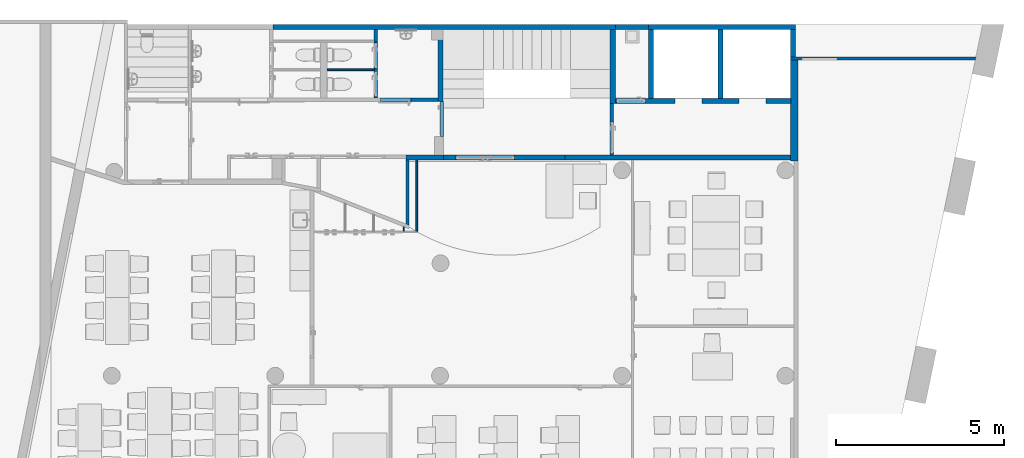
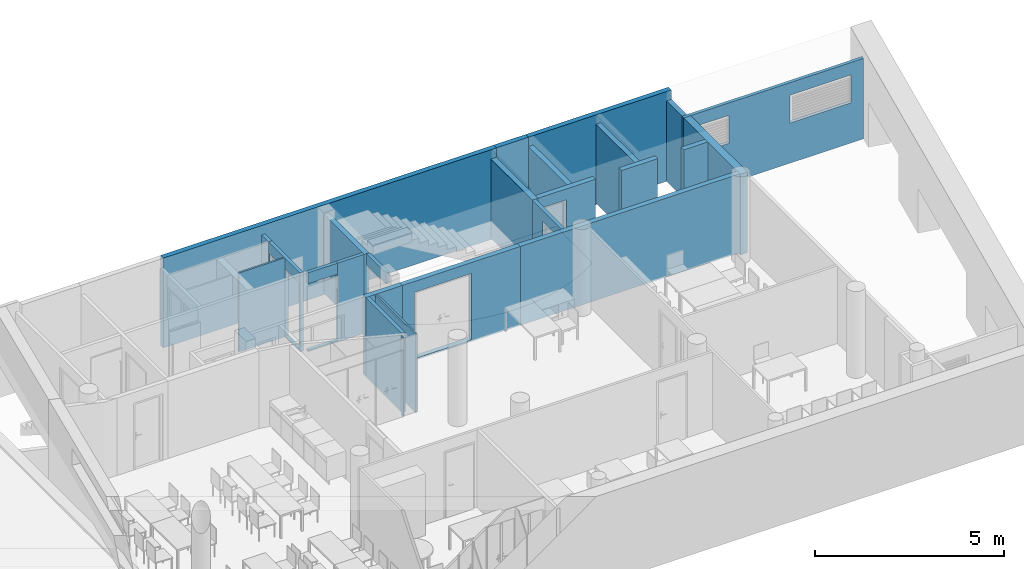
"""IFC4 building model written with IfcOpenShell, lengths in metres."""

from ifc_helpers import new_model, entity, si_unit, converted_unit, derived_unit, frame, frame_2d, origin, origin_with_axes, place, context, subcontext, project, spatial, polyline, rectangle, outline, extrude, material, layer, layer_set, layer_usage, element, save


model = new_model("IFC4")

# Units and contexts
model_context = context("Model", 3, precision=1e-05, world=origin())
body_context = subcontext(model_context, "Body", "Model", "MODEL_VIEW")
ifc_project = project(units=[si_unit("LENGTHUNIT", "METRE"), si_unit("AREAUNIT", "SQUARE_METRE"), si_unit("VOLUMEUNIT", "CUBIC_METRE"), si_unit("MASSUNIT", "GRAM", prefix="KILO"), converted_unit("PLANEANGLEUNIT", "DEGREE", entity("IfcPlaneAngleMeasure", 0.0174532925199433), si_unit("PLANEANGLEUNIT", "RADIAN"), dimensions=[0, 0, 0, 0, 0, 0, 0]), derived_unit("THERMALTRANSMITTANCEUNIT", [(si_unit("POWERUNIT", "WATT"), 1), (si_unit("THERMODYNAMICTEMPERATUREUNIT", "KELVIN"), -1), (si_unit("LENGTHUNIT", "METRE"), -2)]), derived_unit("VOLUMETRICFLOWRATEUNIT", [(si_unit("LENGTHUNIT", "METRE"), 3), (converted_unit("TIMEUNIT", "hour", entity("IfcTimeMeasure", 3600.0), si_unit("TIMEUNIT", "SECOND"), dimensions=[0, 0, 1, 0, 0, 0, 0]), -1), (si_unit("LENGTHUNIT", "METRE"), -1)])], contexts=[model_context])

# Building, storeys
building_placement = place(None, origin())
building = spatial("IfcBuilding", under=ifc_project, at=building_placement, Name="HABITATGE PLURIFAMILIAR", CompositionType="ELEMENT")
storey_1_placement = place(building_placement, frame((0.0, 0.0, 3.35)))
storey_1 = spatial("IfcBuildingStorey", under=building, at=storey_1_placement, Name="PLANTA  ALTELL", CompositionType="ELEMENT", Elevation=3.35)
storey_2_placement = place(storey_1_placement, origin())
storey_2 = spatial("IfcBuildingStorey", under=storey_1, at=storey_2_placement, Name="NOU", CompositionType="PARTIAL")

# Walls
ifc_material_1 = material()
ifc_layer_1 = layer(ifc_material_1, 0.05)
ifc_layer_set_1 = layer_set([ifc_layer_1])
ifc_layer_usage_1 = layer_usage(ifc_layer_set_1, "AXIS2", "POSITIVE", 0.0)
wall_1_placement = place(storey_2_placement, frame((407.376931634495, 26.8594512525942, -0.05)))
element("IfcWall", 1, at=wall_1_placement, inside=storey_2, material=ifc_layer_usage_1, Name="Evans PA", context=body_context, shape_type="SweptSolid", body=[
    extrude(rectangle(XDim=1.4, YDim=0.05, at=frame_2d((0.7, 0.025), x_axis=(1.0, 0.0))), origin_with_axes(), (0.0, 0.0, 1.0), 2.55),
])
ifc_material_2 = material()
ifc_layer_2 = layer(ifc_material_2, 0.1)
ifc_layer_set_2 = layer_set([ifc_layer_2])
ifc_layer_usage_2 = layer_usage(ifc_layer_set_2, "AXIS2", "POSITIVE", 0.0)
wall_2_placement = place(storey_2_placement, frame((409.816597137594, 22.2681371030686, -0.05), z_axis=(0.0, 0.0, 1.0), x_axis=(0.0, 1.0, 0.0)))
element("IfcWall", 2, at=wall_2_placement, inside=storey_2, material=ifc_layer_usage_2, Name="Evans PA", context=body_context, shape_type="SweptSolid", body=[
    extrude(outline(polyline([(0.0, -0.1), (1.93145439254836, -0.1), (1.93145439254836, 0.0), (0.0393581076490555, 0.0), (0.0, -0.1)])), frame((0.0, 0.1, 0.0), z_axis=(0.0, 0.0, 1.0), x_axis=(1.0, 0.0, 0.0)), (0.0, 0.0, 1.0), 2.55),
])
ifc_material_3 = material()
ifc_layer_3 = layer(ifc_material_3, 0.05)
ifc_layer_set_3 = layer_set([ifc_layer_3])
ifc_layer_usage_3 = layer_usage(ifc_layer_set_3, "AXIS2", "POSITIVE", 0.0)
wall_3_placement = place(storey_2_placement, frame((410.067193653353, 22.0935846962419, -0.05), z_axis=(0.0, 0.0, 1.0), x_axis=(0.0, 1.0, 0.0)))
element("IfcWall", 3, at=wall_3_placement, inside=storey_2, material=ifc_layer_usage_3, Name="Evans PA", context=body_context, shape_type="SweptSolid", body=[
    extrude(rectangle(XDim=2.10600679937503, YDim=0.05, at=frame_2d((1.05300339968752, 0.025), x_axis=(1.0, 0.0))), origin_with_axes(), (0.0, 0.0, 1.0), 2.55),
])
ifc_material_4 = material()
ifc_layer_4 = layer(ifc_material_4, 0.03)
ifc_layer_set_4 = layer_set([ifc_layer_4])
ifc_layer_usage_4 = layer_usage(ifc_layer_set_4, "AXIS2", "POSITIVE", 0.0)
wall_4_placement = place(storey_2_placement, frame((409.676529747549, 22.0935846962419, -0.05), z_axis=(0.0, 0.0, 1.0), x_axis=(0.0, 1.0, 0.0)))
element("IfcWall", 4, at=wall_4_placement, inside=storey_2, material=ifc_layer_usage_4, Name="Evans PA", context=body_context, shape_type="SweptSolid", body=[
    extrude(outline(polyline([(0.0, -0.03), (0.122213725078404, -0.03), (0.134021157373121, 0.0), (0.0, 0.0), (0.0, -0.03)])), frame((0.0, 0.03, 0.0), z_axis=(0.0, 0.0, 1.0), x_axis=(1.0, 0.0, 0.0)), (0.0, 0.0, 1.0), 2.55),
])
ifc_material_5 = material()
ifc_layer_5 = layer(ifc_material_5, 0.15)
ifc_layer_set_5 = layer_set([ifc_layer_5])
ifc_layer_usage_5 = layer_usage(ifc_layer_set_5, "AXIS2", "POSITIVE", 0.0)
wall_5_placement = place(storey_2_placement, frame((421.286963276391, 27.2695914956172, -0.1), z_axis=(0.0, 0.0, 1.0), x_axis=(0.0, 1.0, 0.0)))
element("IfcWall", 5, at=wall_5_placement, inside=storey_2, material=ifc_layer_usage_5, Name="Evans PA", context=body_context, shape_type="SweptSolid", body=[
    extrude(rectangle(XDim=0.810496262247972, YDim=0.15, at=frame_2d((0.405248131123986, 0.075), x_axis=(1.0, 0.0))), origin_with_axes(), (0.0, 0.0, 1.0), 2.6),
])
ifc_material_6 = material()
ifc_layer_6 = layer(ifc_material_6, 0.15)
ifc_layer_set_6 = layer_set([ifc_layer_6])
ifc_layer_usage_6 = layer_usage(ifc_layer_set_6, "AXIS2", "POSITIVE", 0.0)
wall_6_placement = place(storey_2_placement, frame((417.074691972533, 26.0395914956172, -0.05), z_axis=(0.0, 0.0, 1.0), x_axis=(0.0, 1.0, 0.0)))
element("IfcWall", 6, at=wall_6_placement, inside=storey_2, material=ifc_layer_usage_6, Name="Evans PA", context=body_context, shape_type="SweptSolid", body=[
    extrude(rectangle(XDim=2.040496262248, YDim=0.15, at=frame_2d((1.020248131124, 0.075), x_axis=(1.0, 0.0))), origin_with_axes(), (0.0, 0.0, 1.0), 2.55),
])
ifc_material_7 = material()
ifc_layer_7 = layer(ifc_material_7, 0.15)
ifc_layer_set_7 = layer_set([ifc_layer_7])
ifc_layer_usage_7 = layer_usage(ifc_layer_set_7, "AXIS2", "POSITIVE", 0.0)
wall_7_placement = place(storey_2_placement, frame((419.137385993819, 26.0395914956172, -0.05), z_axis=(0.0, 0.0, 1.0), x_axis=(0.0, 1.0, 0.0)))
element("IfcWall", 7, at=wall_7_placement, inside=storey_2, material=ifc_layer_usage_7, Name="Evans PA", context=body_context, shape_type="SweptSolid", body=[
    extrude(rectangle(XDim=2.040496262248, YDim=0.15, at=frame_2d((1.020248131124, 0.075), x_axis=(1.0, 0.0))), origin_with_axes(), (0.0, 0.0, 1.0), 2.55),
])

# Wall, openings
ifc_material_8 = material()
ifc_layer_8 = layer(ifc_material_8, 0.1)
ifc_layer_set_8 = layer_set([ifc_layer_8])
ifc_layer_usage_8 = layer_usage(ifc_layer_set_8, "AXIS2", "POSITIVE", 0.0)
wall_8_placement = place(storey_2_placement, frame((426.647652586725, 27.2695914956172, -0.1), z_axis=(0.0, 0.0, 1.0), x_axis=(-1.0, 0.0, 0.0)))
wall_8 = element("IfcWall", 8, at=wall_8_placement, inside=storey_2, material=ifc_layer_usage_8, Name="Evans PA", context=body_context, shape_type="SweptSolid", body=[
    extrude(outline(polyline([(-5.51090262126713, -0.1), (-7.31715117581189e-08, -0.1), (0.0, 0.0), (-5.49017839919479, 0.0), (-5.51090262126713, -0.1)])), frame((5.51090262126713, 0.1, 0.0), z_axis=(0.0, 0.0, 1.0), x_axis=(1.0, 0.0, 0.0)), (0.0, 0.0, 1.0), 2.6),
])
opening_1_placement = place(wall_8_placement, frame((5.16778326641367, 0.1, 1.3), z_axis=(0.0, -1.0, 0.0), x_axis=(0.0, 0.0, 1.0)))
element("IfcOpeningElement", 9, at=opening_1_placement, cuts=wall_8, Name="Vano dei finestra PA", ObjectType="Opening", context=body_context, shape_type="SweptSolid", body=[
    extrude(outline(polyline([(0.9, 1.04746529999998), (0.9, 0.0), (0.0, 0.0), (0.0, 1.04746529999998), (0.9, 1.04746529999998)])), origin_with_axes(), (0.0, 0.0, 1.0), 0.1),
])
opening_2_placement = place(wall_8_placement, frame((2.26191189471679, 0.1, 1.3), z_axis=(0.0, -1.0, 0.0), x_axis=(0.0, 0.0, 1.0)))
element("IfcOpeningElement", 10, at=opening_2_placement, cuts=wall_8, Name="Vano dei finestra PA", ObjectType="Opening", context=body_context, shape_type="SweptSolid", body=[
    extrude(outline(polyline([(0.9, 1.86659639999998), (0.9, 0.0), (0.0, 0.0), (0.0, 1.86659639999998), (0.9, 1.86659639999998)])), origin_with_axes(), (0.0, 0.0, 1.0), 0.1),
])

# Walls
ifc_material_9 = material()
ifc_layer_9 = layer(ifc_material_9, 0.17)
ifc_layer_set_9 = layer_set([ifc_layer_9])
ifc_layer_usage_9 = layer_usage(ifc_layer_set_9, "AXIS2", "POSITIVE", 0.0)
wall_9_placement = place(storey_2_placement, frame((415.776931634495, 28.0800877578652, -0.05), z_axis=(0.0, 0.0, 1.0), x_axis=(0.0, -1.0, 0.0)))
element("IfcWall", 11, at=wall_9_placement, inside=storey_2, material=ifc_layer_usage_9, Name="Evans PA", context=body_context, shape_type="SweptSolid", body=[
    extrude(rectangle(XDim=2.190496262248, YDim=0.17, at=frame_2d((1.095248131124, 0.085), x_axis=(1.0, 0.0))), origin_with_axes(), (0.0, 0.0, 1.0), 2.55),
])
ifc_material_10 = material()
ifc_layer_10 = layer(ifc_material_10, 0.15)
ifc_layer_set_10 = layer_set([ifc_layer_10])
ifc_layer_usage_10 = layer_usage(ifc_layer_set_10, "AXIS2", "POSITIVE", 0.0)
wall_10_placement = place(storey_2_placement, frame((410.829962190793, 24.3495914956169, -0.05), z_axis=(0.0, 0.0, 1.0), x_axis=(-1.0, 0.0, 0.0)))
element("IfcWall", 12, at=wall_10_placement, inside=storey_2, material=ifc_layer_usage_10, Name="Evans PA", context=body_context, shape_type="SweptSolid", body=[
    extrude(rectangle(XDim=1.11336505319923, YDim=0.15, at=frame_2d((0.556682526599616, 0.075), x_axis=(1.0, 0.0))), origin_with_axes(), (0.0, 0.0, 1.0), 2.55),
])

# Wall, openings
ifc_material_11 = material()
ifc_layer_11 = layer(ifc_material_11, 0.15)
ifc_layer_set_11 = layer_set([ifc_layer_11])
ifc_layer_usage_11 = layer_usage(ifc_layer_set_11, "AXIS2", "POSITIVE", 0.0)
wall_11_placement = place(storey_2_placement, frame((415.946931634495, 25.8895914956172, -0.05)))
wall_11 = element("IfcWall", 13, at=wall_11_placement, inside=storey_2, material=ifc_layer_usage_11, Name="Evans PA", context=body_context, shape_type="SweptSolid", body=[
    extrude(rectangle(XDim=5.20364709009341, YDim=0.15, at=frame_2d((2.6018235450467, 0.075), x_axis=(1.0, 0.0))), origin_with_axes(), (0.0, 0.0, 1.0), 2.55),
])
opening_3_placement = place(wall_11_placement, frame((3.66000000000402, 0.0, 0.0), z_axis=(0.0, 1.0, 0.0), x_axis=(0.0, 0.0, 1.0)))
element("IfcOpeningElement", 14, at=opening_3_placement, cuts=wall_11, Name="Vano de puerta PA", ObjectType="Opening", context=body_context, shape_type="SweptSolid", body=[
    extrude(outline(polyline([(2.55, 0.8), (2.55, 0.0), (0.0, 0.0), (0.0, 0.8), (2.55, 0.8)])), origin_with_axes(), (0.0, 0.0, 1.0), 0.15),
])
opening_4_placement = place(wall_11_placement, frame((0.0300832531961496, 0.0, 0.05), z_axis=(0.0, 1.0, 0.0), x_axis=(0.0, 0.0, 1.0)))
element("IfcOpeningElement", 15, at=opening_4_placement, cuts=wall_11, Name="Vano de puerta PA", ObjectType="Opening", context=body_context, shape_type="SweptSolid", body=[
    extrude(outline(polyline([(2.15, 0.849991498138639), (2.15, 0.0), (0.0, 0.0), (0.0, 0.849991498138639), (2.15, 0.849991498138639)])), origin_with_axes(), (0.0, 0.0, 1.0), 0.15),
])
opening_5_placement = place(wall_11_placement, frame((1.76000000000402, 0.0, 0.0), z_axis=(0.0, 1.0, 0.0), x_axis=(0.0, 0.0, 1.0)))
element("IfcOpeningElement", 16, at=opening_5_placement, cuts=wall_11, Name="Vano de puerta PA", ObjectType="Opening", context=body_context, shape_type="SweptSolid", body=[
    extrude(outline(polyline([(2.55, 0.8), (2.55, 0.0), (0.0, 0.0), (0.0, 0.8), (2.55, 0.8)])), origin_with_axes(), (0.0, 0.0, 1.0), 0.15),
])

# Walls
ifc_material_12 = material()
ifc_layer_12 = layer(ifc_material_12, 0.15)
ifc_layer_set_12 = layer_set([ifc_layer_12])
ifc_layer_usage_12 = layer_usage(ifc_layer_set_12, "AXIS2", "POSITIVE", 0.0)
wall_12_placement = place(storey_2_placement, frame((421.136931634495, 24.3495914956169, -0.05), z_axis=(0.0, 0.0, 1.0), x_axis=(-1.0, 0.0, 0.0)))
element("IfcWall", 17, at=wall_12_placement, inside=storey_2, material=ifc_layer_usage_12, Name="Evans PA", context=body_context, shape_type="SweptSolid", body=[
    extrude(rectangle(XDim=6.70000000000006, YDim=0.15, at=frame_2d((3.35000000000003, 0.075), x_axis=(1.0, 0.0))), origin_with_axes(), (0.0, 0.0, 1.0), 2.55),
])
ifc_material_13 = material()
ifc_layer_13 = layer(ifc_material_13, 0.219999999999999)
ifc_layer_set_13 = layer_set([ifc_layer_13])
ifc_layer_usage_13 = layer_usage(ifc_layer_set_13, "AXIS2", "POSITIVE", 0.0)
wall_13_placement = place(storey_2_placement, frame((421.356961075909, 24.1694786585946, -0.1), z_axis=(0.0, 0.0, 1.0), x_axis=(7.31714973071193e-07, 0.999999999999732, 0.0)))
element("IfcWall", 18, at=wall_13_placement, inside=storey_2, material=ifc_layer_usage_13, Name="Evans PA", context=body_context, shape_type="SweptSolid", body=[
    extrude(rectangle(XDim=3.0001128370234, YDim=0.220000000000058, at=frame_2d((1.5000564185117, 0.110000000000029), x_axis=(1.0, 0.0))), origin_with_axes(), (0.0, 0.0, 1.0), 2.6),
])
ifc_material_14 = material()
ifc_layer_14 = layer(ifc_material_14, 0.1)
ifc_layer_set_14 = layer_set([ifc_layer_14])
ifc_layer_usage_14 = layer_usage(ifc_layer_set_14, "AXIS2", "POSITIVE", 0.0)
wall_14_placement = place(storey_2_placement, frame((408.876931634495, 27.7095914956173, -0.05), z_axis=(0.0, 0.0, 1.0), x_axis=(0.0, 1.0, 0.0)))
element("IfcWall", 19, at=wall_14_placement, inside=storey_2, material=ifc_layer_usage_14, Name="Evans PA", context=body_context, shape_type="SweptSolid", body=[
    extrude(rectangle(XDim=0.3704962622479, YDim=0.1, at=frame_2d((0.18524813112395, 0.05), x_axis=(1.0, 0.0))), origin_with_axes(), (0.0, 0.0, 1.0), 2.55),
])
ifc_material_15 = material()
ifc_layer_15 = layer(ifc_material_15, 0.1)
ifc_layer_set_15 = layer_set([ifc_layer_15])
ifc_layer_usage_15 = layer_usage(ifc_layer_set_15, "AXIS2", "POSITIVE", 0.0)
wall_15_placement = place(storey_2_placement, frame((409.867084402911, 25.9491362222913, -0.05)))
element("IfcWall", 20, at=wall_15_placement, inside=storey_2, material=ifc_layer_usage_15, Name="Evans PA", context=body_context, shape_type="SweptSolid", body=[
    extrude(rectangle(XDim=0.809983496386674, YDim=0.1, at=frame_2d((0.404991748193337, 0.05), x_axis=(1.0, 0.0))), origin_with_axes(), (0.0, 0.0, 1.0), 2.55),
])
ifc_material_16 = material()
ifc_layer_16 = layer(ifc_material_16, 0.15)
ifc_layer_set_16 = layer_set([ifc_layer_16])
ifc_layer_usage_16 = layer_usage(ifc_layer_set_16, "AXIS2", "POSITIVE", 0.0)
wall_16_placement = place(storey_2_placement, frame((410.827067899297, 25.9491362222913, -0.05), z_axis=(0.0, 0.0, 1.0), x_axis=(0.0, 1.0, 0.0)))
element("IfcWall", 21, at=wall_16_placement, inside=storey_2, material=ifc_layer_usage_16, Name="Evans PA", context=body_context, shape_type="SweptSolid", body=[
    extrude(rectangle(XDim=2.13095153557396, YDim=0.15, at=frame_2d((1.06547576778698, 0.075), x_axis=(1.0, 0.0))), origin_with_axes(), (0.0, 0.0, 1.0), 2.55),
])
ifc_material_17 = material()
ifc_layer_17 = layer(ifc_material_17, 0.15)
ifc_layer_set_17 = layer_set([ifc_layer_17])
ifc_layer_usage_17 = layer_usage(ifc_layer_set_17, "AXIS2", "POSITIVE", 0.0)
wall_17_placement = place(storey_2_placement, frame((415.946931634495, 28.2300877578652, -0.1), z_axis=(0.0, 0.0, 1.0), x_axis=(-1.0, 0.0, 0.0)))
element("IfcWall", 22, at=wall_17_placement, inside=storey_2, material=ifc_layer_usage_17, Name="Evans PA", context=body_context, shape_type="SweptSolid", body=[
    extrude(rectangle(XDim=10.1710644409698, YDim=0.15, at=frame_2d((5.08553222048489, 0.075), x_axis=(1.0, 0.0))), origin_with_axes(), (0.0, 0.0, 1.0), 2.9),
])
ifc_material_18 = material()
ifc_layer_18 = layer(ifc_material_18, 0.15)
ifc_layer_set_18 = layer_set([ifc_layer_18])
ifc_layer_usage_18 = layer_usage(ifc_layer_set_18, "AXIS2", "POSITIVE", 0.0)
wall_18_placement = place(storey_2_placement, frame((421.286963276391, 28.2300877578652, -0.1), z_axis=(0.0, 0.0, 1.0), x_axis=(-1.0, 0.0, 0.0)))
element("IfcWall", 23, at=wall_18_placement, inside=storey_2, material=ifc_layer_usage_18, Name="Evans PA", context=body_context, shape_type="SweptSolid", body=[
    extrude(rectangle(XDim=4.36227130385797, YDim=0.15, at=frame_2d((2.18113565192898, 0.075), x_axis=(1.0, 0.0))), origin_with_axes(), (0.0, 0.0, 1.0), 2.9),
])

# Wall, openings
ifc_material_19 = material()
ifc_layer_19 = layer(ifc_material_19, 0.1)
ifc_layer_set_19 = layer_set([ifc_layer_19])
ifc_layer_usage_19 = layer_usage(ifc_layer_set_19, "AXIS2", "POSITIVE", 0.0)
wall_19_placement = place(storey_2_placement, frame((408.876931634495, 26.0491362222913, -0.05), z_axis=(0.0, 0.0, 1.0), x_axis=(0.0, 1.0, 0.0)))
wall_19 = element("IfcWall", 24, at=wall_19_placement, inside=storey_2, material=ifc_layer_usage_19, Name="Evans PA", context=body_context, shape_type="SweptSolid", body=[
    extrude(rectangle(XDim=1.66045527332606, YDim=0.1, at=frame_2d((0.830227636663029, 0.05), x_axis=(1.0, 0.0))), origin_with_axes(), (0.0, 0.0, 1.0), 2.55),
])
opening_6_placement = place(wall_19_placement, frame((0.790385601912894, 0.1, 0.05), z_axis=(0.0, -1.0, 0.0), x_axis=(0.0, 0.0, 1.0)))
element("IfcOpeningElement", 25, at=opening_6_placement, cuts=wall_19, Name="Vano de puerta PA", ObjectType="Opening", context=body_context, shape_type="SweptSolid", body=[
    extrude(outline(polyline([(2.15, 0.74), (2.15, 0.0), (0.0, 0.0), (0.0, 0.74), (2.15, 0.74)])), origin_with_axes(), (0.0, 0.0, 1.0), 0.1),
])
opening_7_placement = place(wall_19_placement, frame((1.63038515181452, 0.1, 0.05), z_axis=(0.0, -1.0, 0.0), x_axis=(0.0, 0.0, 1.0)))
element("IfcOpeningElement", 26, at=opening_7_placement, cuts=wall_19, Name="Vano de puerta PA", ObjectType="Opening", context=body_context, shape_type="SweptSolid", body=[
    extrude(outline(polyline([(2.15, 0.74), (2.15, 0.0), (0.0, 0.0), (0.0, 0.74), (2.15, 0.74)])), origin_with_axes(), (0.0, 0.0, 1.0), 0.1),
])

# Wall, opening
ifc_material_20 = material()
ifc_layer_20 = layer(ifc_material_20, 0.1)
ifc_layer_set_20 = layer_set([ifc_layer_20])
ifc_layer_usage_20 = layer_usage(ifc_layer_set_20, "AXIS2", "POSITIVE", 0.0)
wall_20_placement = place(storey_2_placement, frame((410.842773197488, 24.9023035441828, 0.0), z_axis=(0.0, 0.0, 1.0), x_axis=(0.0, 1.0, 0.0)))
wall_20 = element("IfcWall", 27, at=wall_20_placement, inside=storey_2, material=ifc_layer_usage_20, Name="Evans PA", context=body_context, shape_type="SweptSolid", body=[
    extrude(rectangle(XDim=1.03683267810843, YDim=0.1, at=frame_2d((0.518416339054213, 0.05), x_axis=(1.0, 0.0))), origin_with_axes(), (0.0, 0.0, 1.0), 2.5),
])
opening_8_placement = place(wall_20_placement, frame((0.0, 0.0, 0.0), z_axis=(0.0, 1.0, 0.0), x_axis=(0.0, 0.0, 1.0)))
element("IfcOpeningElement", 28, at=opening_8_placement, cuts=wall_20, Name="Vano de puerta PA", ObjectType="Opening", context=body_context, shape_type="SweptSolid", body=[
    extrude(outline(polyline([(2.15, 1.04683267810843), (2.15, 0.0), (0.0, 0.0), (0.0, 1.04683267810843), (2.15, 1.04683267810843)])), origin_with_axes(), (0.0, 0.0, 1.0), 0.1),
])

# Wall
ifc_material_21 = material()
ifc_layer_21 = layer(ifc_material_21, 0.15)
ifc_layer_set_21 = layer_set([ifc_layer_21])
ifc_layer_usage_21 = layer_usage(ifc_layer_set_21, "AXIS2", "POSITIVE", 0.0)
wall_21_placement = place(storey_2_placement, frame((416.924691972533, 28.2300877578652, -0.1), z_axis=(0.0, 0.0, 1.0), x_axis=(-1.0, 0.0, 0.0)))
element("IfcWall", 29, at=wall_21_placement, inside=storey_2, material=ifc_layer_usage_21, Name="Evans PA", context=body_context, shape_type="SweptSolid", body=[
    extrude(rectangle(XDim=0.977760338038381, YDim=0.15, at=frame_2d((0.48888016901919, 0.075), x_axis=(1.0, 0.0))), origin_with_axes(), (0.0, 0.0, 1.0), 2.9),
])

# Wall, opening
ifc_material_22 = material()
ifc_layer_22 = layer(ifc_material_22, 0.1)
ifc_layer_set_22 = layer_set([ifc_layer_22])
ifc_layer_usage_22 = layer_usage(ifc_layer_set_22, "AXIS2", "POSITIVE", 0.0)
wall_22_placement = place(storey_2_placement, frame((415.876931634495, 24.3495914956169, -0.05), z_axis=(0.0, 0.0, 1.0), x_axis=(0.0, 1.0, 0.0)))
wall_22 = element("IfcWall", 30, at=wall_22_placement, inside=storey_2, material=ifc_layer_usage_22, Name="Evans PA", context=body_context, shape_type="SweptSolid", body=[
    extrude(rectangle(XDim=1.54000000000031, YDim=0.1, at=frame_2d((0.770000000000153, 0.05), x_axis=(1.0, 0.0))), origin_with_axes(), (0.0, 0.0, 1.0), 2.55),
])
opening_9_placement = place(wall_22_placement, frame((0.0499652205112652, 0.0, 0.05), z_axis=(0.0, 1.0, 0.0), x_axis=(0.0, 0.0, 1.0)))
element("IfcOpeningElement", 31, at=opening_9_placement, cuts=wall_22, Name="Vano de puerta PA", ObjectType="Opening", context=body_context, shape_type="SweptSolid", body=[
    extrude(outline(polyline([(2.15, 0.94), (2.15, 0.0), (0.0, 0.0), (0.0, 0.94), (2.15, 0.94)])), origin_with_axes(), (0.0, 0.0, 1.0), 0.1),
])

ifc_material_23 = material()
ifc_layer_23 = layer(ifc_material_23, 0.15)
ifc_layer_set_23 = layer_set([ifc_layer_23])
ifc_layer_usage_23 = layer_usage(ifc_layer_set_23, "AXIS2", "POSITIVE", 0.0)
wall_23_placement = place(storey_2_placement, frame((414.436931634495, 24.3495914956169, -0.05), z_axis=(0.0, 0.0, 1.0), x_axis=(-1.0, 0.0, 0.0)))
wall_23 = element("IfcWall", 32, at=wall_23_placement, inside=storey_2, material=ifc_layer_usage_23, Name="Evans PA", context=body_context, shape_type="SweptSolid", body=[
    extrude(rectangle(XDim=3.60696944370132, YDim=0.15, at=frame_2d((1.80348472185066, 0.075), x_axis=(1.0, 0.0))), origin_with_axes(), (0.0, 0.0, 1.0), 2.55),
])
opening_10_placement = place(wall_23_placement, frame((3.23186417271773, 0.15, 0.05), z_axis=(0.0, -1.0, 0.0), x_axis=(0.0, 0.0, 1.0)))
element("IfcOpeningElement", 33, at=opening_10_placement, cuts=wall_23, Name="Vano de puerta PA", ObjectType="Opening", context=body_context, shape_type="SweptSolid", body=[
    extrude(outline(polyline([(2.15, 1.74), (2.15, 0.0), (0.0, 0.0), (0.0, 1.74), (2.15, 1.74)])), origin_with_axes(), (0.0, 0.0, 1.0), 0.15),
])

# Wall, openings
ifc_material_24 = material()
ifc_layer_24 = layer(ifc_material_24, 0.1)
ifc_layer_set_24 = layer_set([ifc_layer_24])
ifc_layer_usage_24 = layer_usage(ifc_layer_set_24, "AXIS2", "POSITIVE", 0.0)
wall_24_placement = place(storey_2_placement, frame((408.967084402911, 25.9491362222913, -0.05)))
wall_24 = element("IfcWall", 34, at=wall_24_placement, inside=storey_2, material=ifc_layer_usage_24, Name="Evans PA", context=body_context, shape_type="SweptSolid", body=[
    extrude(rectangle(XDim=0.9, YDim=0.1, at=frame_2d((0.45, 0.05), x_axis=(1.0, 0.0))), origin_with_axes(), (0.0, 0.0, 1.0), 2.55),
])
opening_11_placement = place(wall_24_placement, frame((0.9, 0.1, 0.05), z_axis=(0.0, -1.0, 0.0), x_axis=(0.0, 0.0, 1.0)))
element("IfcOpeningElement", 35, at=opening_11_placement, cuts=wall_24, Name="Vano de puerta PA", ObjectType="Opening", context=body_context, shape_type="SweptSolid", body=[
    extrude(outline(polyline([(2.15, 0.9), (2.15, 0.0), (0.0, 0.0), (0.0, 0.9), (2.15, 0.9)])), origin_with_axes(), (0.0, 0.0, 1.0), 0.1),
])
opening_12_placement = place(wall_24_placement, frame((0.9, 0.1, 0.05), z_axis=(0.0, -1.0, 0.0), x_axis=(0.0, 0.0, 1.0)))
element("IfcOpeningElement", 36, at=opening_12_placement, cuts=wall_24, Name="Vano de puerta PA", ObjectType="Opening", context=body_context, shape_type="SweptSolid", body=[
    extrude(outline(polyline([(2.1, 0.9), (2.1, 0.0), (0.0, 0.0), (0.0, 0.9), (2.1, 0.9)])), origin_with_axes(), (0.0, 0.0, 1.0), 0.1),
])

save(model, "model.ifc")
